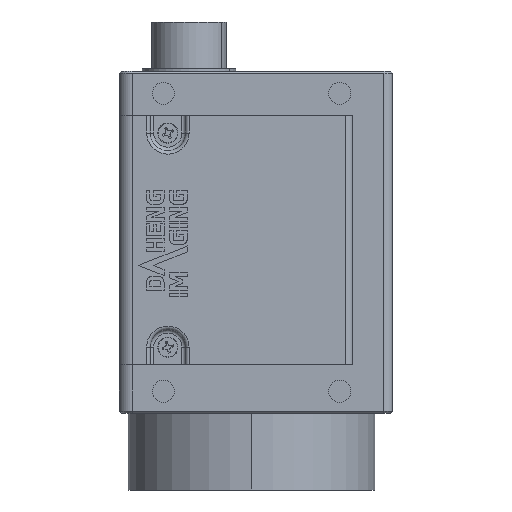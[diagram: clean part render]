
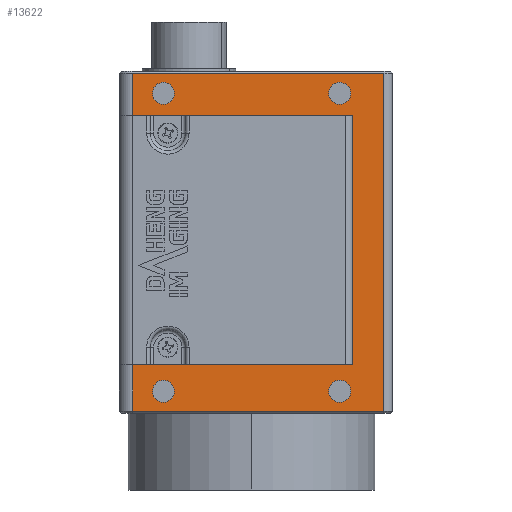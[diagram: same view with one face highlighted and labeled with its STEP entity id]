
A CAD part, left-side view. The second image highlights one B-rep face of the part: STEP entity #13622.
In plain terms, the highlighted planar face has unit normal (-1, 0, 0).
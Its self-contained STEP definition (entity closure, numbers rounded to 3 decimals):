
#240 = CARTESIAN_POINT ( 'NONE',  ( -18., -11.5, 18.5 ) ) ;
#412 = EDGE_CURVE ( 'NONE', #30611, #22291, #15955, .T. ) ;
#1452 = CARTESIAN_POINT ( 'NONE',  ( -18., 13.5, 47.3 ) ) ;
#1500 = FACE_BOUND ( 'NONE', #9018, .T. ) ;
#1576 = DIRECTION ( 'NONE',  ( 0., 1., 0. ) ) ;
#1800 = DIRECTION ( 'NONE',  ( 0., 0., 1. ) ) ;
#1836 = CIRCLE ( 'NONE', #14529, 1.25 ) ;
#1839 = CARTESIAN_POINT ( 'NONE',  ( -18., -10., 49.8 ) ) ;
#2086 = VECTOR ( 'NONE', #32142, 1000. ) ;
#2095 = CIRCLE ( 'NONE', #12877, 1.25 ) ;
#2330 = AXIS2_PLACEMENT_3D ( 'NONE', #30255, #12476, #33221 ) ;
#2531 = AXIS2_PLACEMENT_3D ( 'NONE', #12717, #33465, #15727 ) ;
#2760 = VECTOR ( 'NONE', #9228, 1000. ) ;
#2948 = VERTEX_POINT ( 'NONE', #34010 ) ;
#3374 = DIRECTION ( 'NONE',  ( 0., 0., -1. ) ) ;
#3850 = CARTESIAN_POINT ( 'NONE',  ( -18., -16., 52.1 ) ) ;
#3883 = CARTESIAN_POINT ( 'NONE',  ( -18., -11.5, 19. ) ) ;
#4178 = EDGE_CURVE ( 'NONE', #16396, #2948, #36228, .T. ) ;
#4252 = ORIENTED_EDGE ( 'NONE', *, *, #30534, .F. ) ;
#4352 = CARTESIAN_POINT ( 'NONE',  ( -18., -11.5, 47.3 ) ) ;
#4828 = DIRECTION ( 'NONE',  ( 0., 0., 1. ) ) ;
#4871 = EDGE_CURVE ( 'NONE', #22291, #30611, #28713, .T. ) ;
#5012 = VECTOR ( 'NONE', #5409, 1000. ) ;
#5409 = DIRECTION ( 'NONE',  ( 0., -1., 0. ) ) ;
#5674 = AXIS2_PLACEMENT_3D ( 'NONE', #24724, #6897, #27694 ) ;
#5808 = CARTESIAN_POINT ( 'NONE',  ( -18., 10., 51.05 ) ) ;
#6528 = EDGE_CURVE ( 'NONE', #10149, #33393, #24946, .T. ) ;
#6739 = DIRECTION ( 'NONE',  ( -1., 0., 0. ) ) ;
#6897 = DIRECTION ( 'NONE',  ( -1., 0., 0. ) ) ;
#8101 = LINE ( 'NONE', #240, #29955 ) ;
#8740 = EDGE_CURVE ( 'NONE', #23279, #11582, #18653, .T. ) ;
#8750 = EDGE_CURVE ( 'NONE', #38001, #19840, #1836, .T. ) ;
#9018 = EDGE_LOOP ( 'NONE', ( #12907, #33498 ) ) ;
#9123 = VECTOR ( 'NONE', #30620, 1000. ) ;
#9228 = DIRECTION ( 'NONE',  ( 0., 0., -1. ) ) ;
#9440 = FACE_BOUND ( 'NONE', #10659, .T. ) ;
#9706 = EDGE_CURVE ( 'NONE', #12640, #26534, #26441, .T. ) ;
#9936 = VERTEX_POINT ( 'NONE', #20968 ) ;
#10149 = VERTEX_POINT ( 'NONE', #22258 ) ;
#10390 = AXIS2_PLACEMENT_3D ( 'NONE', #21216, #12228, #3374 ) ;
#10659 = EDGE_LOOP ( 'NONE', ( #4252, #18048 ) ) ;
#10914 = AXIS2_PLACEMENT_3D ( 'NONE', #24577, #6739, #27533 ) ;
#10944 = CARTESIAN_POINT ( 'NONE',  ( -18., -10., 16. ) ) ;
#11371 = CARTESIAN_POINT ( 'NONE',  ( -18., 13.5, 19. ) ) ;
#11582 = VERTEX_POINT ( 'NONE', #14516 ) ;
#11669 = VERTEX_POINT ( 'NONE', #23863 ) ;
#12039 = EDGE_CURVE ( 'NONE', #19840, #38001, #2095, .T. ) ;
#12133 = AXIS2_PLACEMENT_3D ( 'NONE', #12989, #33730, #15986 ) ;
#12228 = DIRECTION ( 'NONE',  ( 1., 0., 0. ) ) ;
#12231 = DIRECTION ( 'NONE',  ( 0., 0., -1. ) ) ;
#12476 = DIRECTION ( 'NONE',  ( -1., 0., 0. ) ) ;
#12547 = ORIENTED_EDGE ( 'NONE', *, *, #24107, .F. ) ;
#12640 = VERTEX_POINT ( 'NONE', #4352 ) ;
#12717 = CARTESIAN_POINT ( 'NONE',  ( -18., 10., 49.8 ) ) ;
#12877 = AXIS2_PLACEMENT_3D ( 'NONE', #1839, #22670, #4828 ) ;
#12907 = ORIENTED_EDGE ( 'NONE', *, *, #12039, .F. ) ;
#12989 = CARTESIAN_POINT ( 'NONE',  ( -18., 10., 16. ) ) ;
#13036 = EDGE_LOOP ( 'NONE', ( #37213, #22239 ) ) ;
#13622 = ADVANCED_FACE ( 'NONE', ( #18318, #9440, #17395, #25258, #1500 ), #32852, .F. ) ;
#13971 = DIRECTION ( 'NONE',  ( 0., 0., 1. ) ) ;
#14516 = CARTESIAN_POINT ( 'NONE',  ( -18., 10., 48.55 ) ) ;
#14529 = AXIS2_PLACEMENT_3D ( 'NONE', #37419, #19644, #1800 ) ;
#14689 = ORIENTED_EDGE ( 'NONE', *, *, #8740, .F. ) ;
#15316 = ORIENTED_EDGE ( 'NONE', *, *, #27738, .T. ) ;
#15727 = DIRECTION ( 'NONE',  ( 0., 0., 1. ) ) ;
#15955 = CIRCLE ( 'NONE', #12133, 1.25 ) ;
#15986 = DIRECTION ( 'NONE',  ( 0., 0., 1. ) ) ;
#16396 = VERTEX_POINT ( 'NONE', #3883 ) ;
#17395 = FACE_OUTER_BOUND ( 'NONE', #38551, .T. ) ;
#17516 = VECTOR ( 'NONE', #24917, 1000. ) ;
#17708 = CARTESIAN_POINT ( 'NONE',  ( -18., -16., 19. ) ) ;
#17749 = CIRCLE ( 'NONE', #5674, 1.25 ) ;
#18048 = ORIENTED_EDGE ( 'NONE', *, *, #38159, .F. ) ;
#18318 = FACE_BOUND ( 'NONE', #13036, .T. ) ;
#18579 = ORIENTED_EDGE ( 'NONE', *, *, #24533, .T. ) ;
#18653 = CIRCLE ( 'NONE', #2531, 1.25 ) ;
#18845 = ORIENTED_EDGE ( 'NONE', *, *, #9706, .F. ) ;
#19418 = CARTESIAN_POINT ( 'NONE',  ( -18., 10., 17.25 ) ) ;
#19644 = DIRECTION ( 'NONE',  ( -1., 0., 0. ) ) ;
#19737 = EDGE_CURVE ( 'NONE', #12640, #16396, #8101, .T. ) ;
#19840 = VERTEX_POINT ( 'NONE', #36518 ) ;
#20662 = DIRECTION ( 'NONE',  ( 0., 1., 0. ) ) ;
#20854 = LINE ( 'NONE', #26203, #5012 ) ;
#20968 = CARTESIAN_POINT ( 'NONE',  ( -18., 13.5, 13.75 ) ) ;
#21216 = CARTESIAN_POINT ( 'NONE',  ( -18., -16., 19. ) ) ;
#21876 = ORIENTED_EDGE ( 'NONE', *, *, #4178, .T. ) ;
#22239 = ORIENTED_EDGE ( 'NONE', *, *, #412, .F. ) ;
#22258 = CARTESIAN_POINT ( 'NONE',  ( -18., -15., 52.1 ) ) ;
#22291 = VERTEX_POINT ( 'NONE', #19418 ) ;
#22670 = DIRECTION ( 'NONE',  ( -1., 0., 0. ) ) ;
#23279 = VERTEX_POINT ( 'NONE', #5808 ) ;
#23799 = ORIENTED_EDGE ( 'NONE', *, *, #34561, .T. ) ;
#23863 = CARTESIAN_POINT ( 'NONE',  ( -18., -10., 14.75 ) ) ;
#23988 = LINE ( 'NONE', #11371, #2086 ) ;
#24107 = EDGE_CURVE ( 'NONE', #11582, #23279, #17749, .T. ) ;
#24252 = CIRCLE ( 'NONE', #30392, 1.25 ) ;
#24393 = CARTESIAN_POINT ( 'NONE',  ( -18., -10., 17.25 ) ) ;
#24533 = EDGE_CURVE ( 'NONE', #33393, #26534, #33438, .T. ) ;
#24577 = CARTESIAN_POINT ( 'NONE',  ( -18., 10., 16. ) ) ;
#24724 = CARTESIAN_POINT ( 'NONE',  ( -18., 10., 49.8 ) ) ;
#24917 = DIRECTION ( 'NONE',  ( 0., 0., 1. ) ) ;
#24946 = LINE ( 'NONE', #3850, #9123 ) ;
#25086 = VERTEX_POINT ( 'NONE', #24393 ) ;
#25258 = FACE_BOUND ( 'NONE', #37155, .T. ) ;
#25373 = LINE ( 'NONE', #33708, #17516 ) ;
#26203 = CARTESIAN_POINT ( 'NONE',  ( -18., -15., 13.75 ) ) ;
#26314 = CIRCLE ( 'NONE', #2330, 1.25 ) ;
#26441 = LINE ( 'NONE', #28371, #32436 ) ;
#26465 = CARTESIAN_POINT ( 'NONE',  ( -18., -10., 48.55 ) ) ;
#26534 = VERTEX_POINT ( 'NONE', #1452 ) ;
#26721 = VERTEX_POINT ( 'NONE', #29657 ) ;
#27533 = DIRECTION ( 'NONE',  ( 0., 0., 1. ) ) ;
#27694 = DIRECTION ( 'NONE',  ( 0., 0., 1. ) ) ;
#27738 = EDGE_CURVE ( 'NONE', #2948, #9936, #23988, .T. ) ;
#27957 = ORIENTED_EDGE ( 'NONE', *, *, #6528, .T. ) ;
#28371 = CARTESIAN_POINT ( 'NONE',  ( -18., -15., 47.3 ) ) ;
#28713 = CIRCLE ( 'NONE', #10914, 1.25 ) ;
#29319 = EDGE_CURVE ( 'NONE', #9936, #26721, #20854, .T. ) ;
#29657 = CARTESIAN_POINT ( 'NONE',  ( -18., -15., 13.75 ) ) ;
#29955 = VECTOR ( 'NONE', #12231, 1000. ) ;
#30255 = CARTESIAN_POINT ( 'NONE',  ( -18., -10., 16. ) ) ;
#30392 = AXIS2_PLACEMENT_3D ( 'NONE', #10944, #31707, #13971 ) ;
#30534 = EDGE_CURVE ( 'NONE', #25086, #11669, #26314, .T. ) ;
#30611 = VERTEX_POINT ( 'NONE', #33354 ) ;
#30620 = DIRECTION ( 'NONE',  ( 0., 1., 0. ) ) ;
#31707 = DIRECTION ( 'NONE',  ( -1., 0., 0. ) ) ;
#32142 = DIRECTION ( 'NONE',  ( 0., 0., -1. ) ) ;
#32436 = VECTOR ( 'NONE', #1576, 1000. ) ;
#32852 = PLANE ( 'NONE',  #10390 ) ;
#32950 = CARTESIAN_POINT ( 'NONE',  ( -18., 13.5, 46.3 ) ) ;
#33221 = DIRECTION ( 'NONE',  ( 0., 0., 1. ) ) ;
#33354 = CARTESIAN_POINT ( 'NONE',  ( -18., 10., 14.75 ) ) ;
#33393 = VERTEX_POINT ( 'NONE', #36042 ) ;
#33438 = LINE ( 'NONE', #32950, #2760 ) ;
#33465 = DIRECTION ( 'NONE',  ( -1., 0., 0. ) ) ;
#33498 = ORIENTED_EDGE ( 'NONE', *, *, #8750, .F. ) ;
#33708 = CARTESIAN_POINT ( 'NONE',  ( -18., -15., 19. ) ) ;
#33730 = DIRECTION ( 'NONE',  ( -1., 0., 0. ) ) ;
#34010 = CARTESIAN_POINT ( 'NONE',  ( -18., 13.5, 19. ) ) ;
#34238 = ORIENTED_EDGE ( 'NONE', *, *, #19737, .T. ) ;
#34561 = EDGE_CURVE ( 'NONE', #26721, #10149, #25373, .T. ) ;
#34976 = ORIENTED_EDGE ( 'NONE', *, *, #29319, .T. ) ;
#36042 = CARTESIAN_POINT ( 'NONE',  ( -18., 13.5, 52.1 ) ) ;
#36228 = LINE ( 'NONE', #17708, #38083 ) ;
#36518 = CARTESIAN_POINT ( 'NONE',  ( -18., -10., 51.05 ) ) ;
#37155 = EDGE_LOOP ( 'NONE', ( #14689, #12547 ) ) ;
#37213 = ORIENTED_EDGE ( 'NONE', *, *, #4871, .F. ) ;
#37419 = CARTESIAN_POINT ( 'NONE',  ( -18., -10., 49.8 ) ) ;
#38001 = VERTEX_POINT ( 'NONE', #26465 ) ;
#38083 = VECTOR ( 'NONE', #20662, 1000. ) ;
#38159 = EDGE_CURVE ( 'NONE', #11669, #25086, #24252, .T. ) ;
#38551 = EDGE_LOOP ( 'NONE', ( #23799, #27957, #18579, #18845, #34238, #21876, #15316, #34976 ) ) ;
